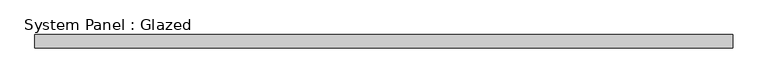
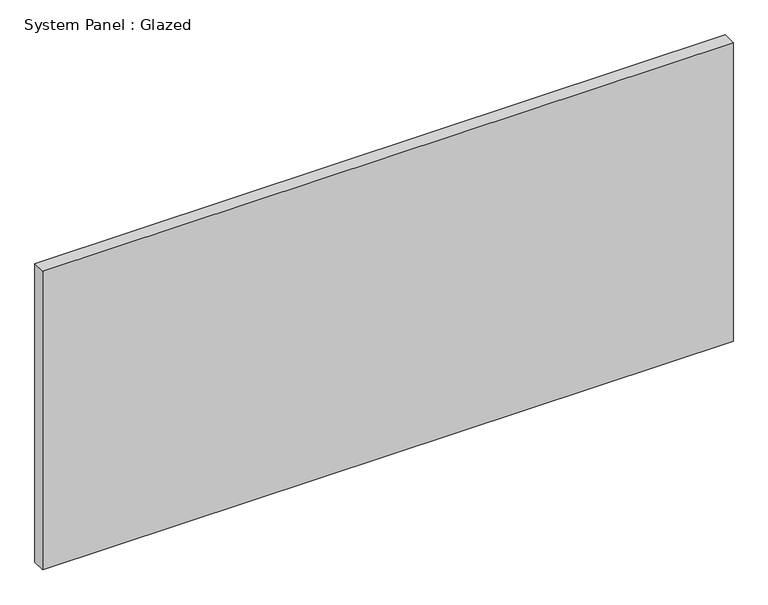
"""IFC4 building model written with IfcOpenShell, lengths in millimetres: plate geometry, System Panel : Glazed."""

from ifc_helpers import new_model, si_unit, origin, origin_with_axes, place, context, project, spatial, polyline, outline, extrude, source, transform, mapped, element, save


def system_panel_glazed_c582eb4d(model_context):
    return source(origin(), model_context, "Body", "SweptSolid", [
        extrude(outline(polyline([(645.4166668, 24.5), (-645.4166668, 24.5), (-645.4166668, 49.5), (645.4166668, 49.5), (645.4166668, 24.5)])), origin_with_axes(), (0.0, 0.0, 1.0), 590.0),
    ])


if __name__ == "__main__":
    model = new_model("IFC4")
    model_context = context("Model", 3, world=origin())
    ifc_project = project(units=[si_unit("LENGTHUNIT", "METRE", prefix="MILLI")], contexts=[model_context])
    site = spatial("IfcSite", under=ifc_project)
    building = spatial("IfcBuilding", under=site)
    placement = place(None, origin())
    system_panel_glazed_shape = system_panel_glazed_c582eb4d(model_context)
    element("IfcPlate", 1, ObjectType="System Panel : Glazed", at=placement, inside=building, context=model_context, shape_type="MappedRepresentation", body=[
        mapped(system_panel_glazed_shape, transform((0.0, 0.0, 0.0), x_axis=(1.0, 0.0, 0.0), y_axis=(0.0, 1.0, 0.0), z_axis=(0.0, 0.0, 1.0))),
    ])
    save(model, "model.ifc")
